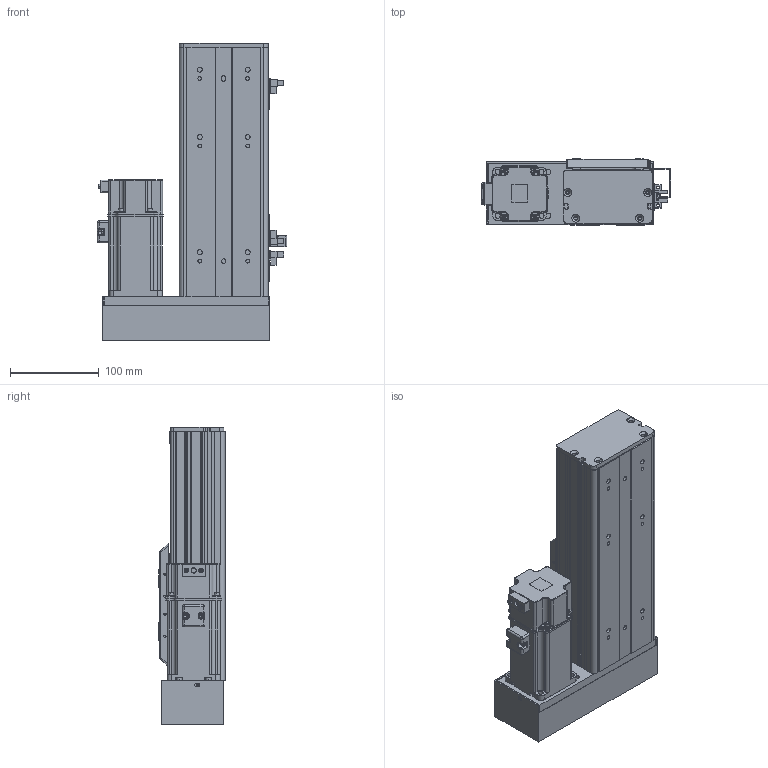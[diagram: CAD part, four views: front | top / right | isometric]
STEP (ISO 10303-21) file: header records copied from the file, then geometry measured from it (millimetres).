
FILE_DESCRIPTION (( 'STEP AP203' ), '1' );
FILE_NAME ('BOSW100-100-1610-1P-RM-M400W-O-S3（方程式2016）.step', '2020-10-10T07:02:44', ( '' ), ( '' ), 'SwSTEP 2.0', 'SolidWorks 2016', '' );
FILE_SCHEMA (( 'CONFIG_CONTROL_DESIGN' ));
Length unit declared in the file: millimetre
Products named in the file (14): BOSW&TW-100-1P-賑雄釱欶; 俋境嫖覜嘐隅啣; BOSW-100-1P-DM-100諦誧芞; BOSW&TW-100-俋离覜茼え; BOSW-100-綴裔啣; 放大器内置U型微型光电传感器PM-L65; 新结构AIMSW-100-1P-宽&高轨共用-滑动座上组件; BOSW100-100-1610-1P-RM-M400W-O-S3（方程式2016）; S400W(SMA-L040); BOSW&TW-100-詩湍揤沭(陔賦凳); BOSW-100-1P-DM-宽轨-侧板-100客户图纸; boS-100-LM&RM-三菱M400W马达板-宽轨; AIMS(W)-100-LM&RM-肮祭謫欶; BOSW-100-1P-DM-宽轨-钢带-100客户图纸
Assembly tree (19 placements, depth 2):
  BOSW100-100-1610-1P-RM-M400W-O-S3（方程式2016）
    BOSW-100-1P-DM-100諦誧芞
    BOSW-100-綴裔啣
    新结构AIMSW-100-1P-宽&高轨共用-滑动座上组件
    S400W(SMA-L040)
    BOSW&TW-100-詩湍揤沭(陔賦凳)  x2
    BOSW&TW-100-1P-賑雄釱欶
    BOSW-100-1P-DM-宽轨-侧板-100客户图纸  x2
    BOSW-100-1P-DM-宽轨-钢带-100客户图纸
    AIMS(W)-100-LM&RM-肮祭謫欶
    boS-100-LM&RM-三菱M400W马达板-宽轨
    俋境嫖覜嘐隅啣  x3
    放大器内置U型微型光电传感器PM-L65  x3
    BOSW&TW-100-俋离覜茼え
Bounding box: 213.4 x 75 x 336 mm (x, y, z)
Volume: 975796.2 mm3; surface area: 501815.3 mm2
Topology: 19 solids, 20 shells, 2479 faces, 6525 edges, 4159 vertices
Faces by surface type: plane 1235, cylinder 758, bspline 271, cone 167, torus 36, sphere 12
Entity records: 67528 total; most frequent: CARTESIAN_POINT 20398, ORIENTED_EDGE 9590, DIRECTION 9255, EDGE_CURVE 4795, AXIS2_PLACEMENT_3D 3259, VERTEX_POINT 3061, VECTOR 2737, LINE 2737
